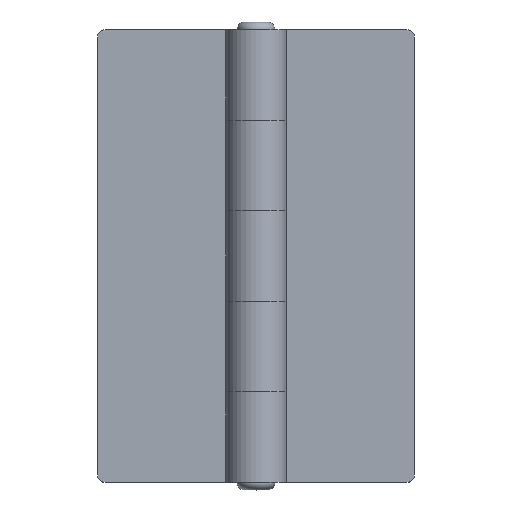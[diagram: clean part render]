
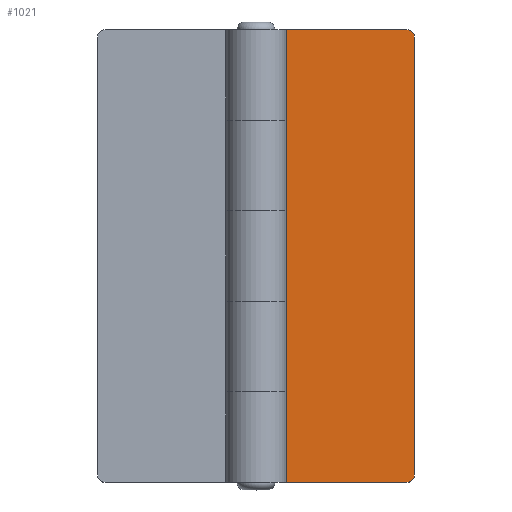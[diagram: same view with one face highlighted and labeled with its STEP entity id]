
A CAD part, top view. The second image highlights one B-rep face of the part: STEP entity #1021.
In plain terms, the highlighted planar face has unit normal (0, 0, 1) as drawn and (0, 1, 0) by its records, which use the part's own axes.
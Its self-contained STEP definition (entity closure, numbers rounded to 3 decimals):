
#34=PLANE('',#1082);
#67=FACE_OUTER_BOUND('',#123,.T.);
#123=EDGE_LOOP('',(#697,#698,#699,#700,#701,#702,#703,#704,#705,#706,#707,
#708,#709,#710));
#183=LINE('',#1538,#281);
#186=LINE('',#1544,#284);
#187=LINE('',#1546,#285);
#188=LINE('',#1548,#286);
#189=LINE('',#1550,#287);
#190=LINE('',#1552,#288);
#191=LINE('',#1554,#289);
#192=LINE('',#1556,#290);
#193=LINE('',#1558,#291);
#194=LINE('',#1560,#292);
#195=LINE('',#1562,#293);
#196=LINE('',#1564,#294);
#281=VECTOR('',#1206,58.);
#284=VECTOR('',#1211,16.);
#285=VECTOR('',#1212,12.);
#286=VECTOR('',#1213,1.534);
#287=VECTOR('',#1214,12.);
#288=VECTOR('',#1215,1.534);
#289=VECTOR('',#1216,12.);
#290=VECTOR('',#1217,1.534);
#291=VECTOR('',#1218,12.);
#292=VECTOR('',#1219,1.534);
#293=VECTOR('',#1220,12.);
#294=VECTOR('',#1221,16.);
#378=CIRCLE('',#1080,1.);
#379=CIRCLE('',#1083,1.);
#435=VERTEX_POINT('',#1531);
#436=VERTEX_POINT('',#1533);
#437=VERTEX_POINT('',#1537);
#439=VERTEX_POINT('',#1543);
#440=VERTEX_POINT('',#1545);
#441=VERTEX_POINT('',#1547);
#442=VERTEX_POINT('',#1549);
#443=VERTEX_POINT('',#1551);
#444=VERTEX_POINT('',#1553);
#445=VERTEX_POINT('',#1555);
#446=VERTEX_POINT('',#1557);
#447=VERTEX_POINT('',#1559);
#448=VERTEX_POINT('',#1561);
#449=VERTEX_POINT('',#1563);
#537=EDGE_CURVE('',#435,#436,#378,.T.);
#539=EDGE_CURVE('',#437,#436,#183,.T.);
#542=EDGE_CURVE('',#439,#435,#186,.T.);
#543=EDGE_CURVE('',#439,#440,#187,.T.);
#544=EDGE_CURVE('',#440,#441,#188,.T.);
#545=EDGE_CURVE('',#442,#441,#189,.T.);
#546=EDGE_CURVE('',#442,#443,#190,.T.);
#547=EDGE_CURVE('',#443,#444,#191,.T.);
#548=EDGE_CURVE('',#444,#445,#192,.T.);
#549=EDGE_CURVE('',#446,#445,#193,.T.);
#550=EDGE_CURVE('',#446,#447,#194,.T.);
#551=EDGE_CURVE('',#447,#448,#195,.T.);
#552=EDGE_CURVE('',#449,#448,#196,.T.);
#553=EDGE_CURVE('',#437,#449,#379,.T.);
#697=ORIENTED_EDGE('',*,*,#537,.F.);
#698=ORIENTED_EDGE('',*,*,#542,.F.);
#699=ORIENTED_EDGE('',*,*,#543,.T.);
#700=ORIENTED_EDGE('',*,*,#544,.T.);
#701=ORIENTED_EDGE('',*,*,#545,.F.);
#702=ORIENTED_EDGE('',*,*,#546,.T.);
#703=ORIENTED_EDGE('',*,*,#547,.T.);
#704=ORIENTED_EDGE('',*,*,#548,.T.);
#705=ORIENTED_EDGE('',*,*,#549,.F.);
#706=ORIENTED_EDGE('',*,*,#550,.T.);
#707=ORIENTED_EDGE('',*,*,#551,.T.);
#708=ORIENTED_EDGE('',*,*,#552,.F.);
#709=ORIENTED_EDGE('',*,*,#553,.F.);
#710=ORIENTED_EDGE('',*,*,#539,.T.);
#1021=ADVANCED_FACE('',(#67),#34,.T.);
#1080=AXIS2_PLACEMENT_3D('',#1534,#1201,#1202);
#1082=AXIS2_PLACEMENT_3D('',#1542,#1209,#1210);
#1083=AXIS2_PLACEMENT_3D('',#1565,#1222,#1223);
#1201=DIRECTION('center_axis',(0.,-1.,0.));
#1202=DIRECTION('ref_axis',(-0.707,0.,0.707));
#1206=DIRECTION('',(0.,0.,1.));
#1209=DIRECTION('center_axis',(0.,1.,0.));
#1210=DIRECTION('ref_axis',(-1.,0.,0.));
#1211=DIRECTION('',(-1.,0.,0.));
#1212=DIRECTION('',(0.,0.,-1.));
#1213=DIRECTION('',(1.,0.,0.));
#1214=DIRECTION('',(0.,0.,1.));
#1215=DIRECTION('',(-1.,0.,0.));
#1216=DIRECTION('',(0.,0.,-1.));
#1217=DIRECTION('',(1.,0.,0.));
#1218=DIRECTION('',(0.,0.,1.));
#1219=DIRECTION('',(-1.,0.,0.));
#1220=DIRECTION('',(0.,0.,-1.));
#1221=DIRECTION('',(1.,0.,0.));
#1222=DIRECTION('center_axis',(0.,-1.,0.));
#1223=DIRECTION('ref_axis',(-0.707,0.,-0.707));
#1531=CARTESIAN_POINT('',(-20.,-1.4,30.));
#1533=CARTESIAN_POINT('',(-21.,-1.4,29.));
#1534=CARTESIAN_POINT('Origin',(-20.,-1.4,29.));
#1537=CARTESIAN_POINT('',(-21.,-1.4,-29.));
#1538=CARTESIAN_POINT('',(-21.,-1.4,0.));
#1542=CARTESIAN_POINT('Origin',(-3.747,-1.4,0.));
#1543=CARTESIAN_POINT('',(-4.,-1.4,30.));
#1544=CARTESIAN_POINT('',(-3.747,-1.4,30.));
#1545=CARTESIAN_POINT('',(-4.,-1.4,18.));
#1546=CARTESIAN_POINT('',(-4.,-1.4,15.));
#1547=CARTESIAN_POINT('',(-2.466,-1.4,18.));
#1548=CARTESIAN_POINT('',(-3.873,-1.4,18.));
#1549=CARTESIAN_POINT('',(-2.466,-1.4,6.));
#1550=CARTESIAN_POINT('',(-2.466,-1.4,0.));
#1551=CARTESIAN_POINT('',(-4.,-1.4,6.));
#1552=CARTESIAN_POINT('',(0.127,-1.4,6.));
#1553=CARTESIAN_POINT('',(-4.,-1.4,-6.));
#1554=CARTESIAN_POINT('',(-4.,-1.4,3.));
#1555=CARTESIAN_POINT('',(-2.466,-1.4,-6.));
#1556=CARTESIAN_POINT('',(-3.873,-1.4,-6.));
#1557=CARTESIAN_POINT('',(-2.466,-1.4,-18.));
#1558=CARTESIAN_POINT('',(-2.466,-1.4,0.));
#1559=CARTESIAN_POINT('',(-4.,-1.4,-18.));
#1560=CARTESIAN_POINT('',(0.127,-1.4,-18.));
#1561=CARTESIAN_POINT('',(-4.,-1.4,-30.));
#1562=CARTESIAN_POINT('',(-4.,-1.4,-9.));
#1563=CARTESIAN_POINT('',(-20.,-1.4,-30.));
#1564=CARTESIAN_POINT('',(-21.,-1.4,-30.));
#1565=CARTESIAN_POINT('Origin',(-20.,-1.4,-29.));
